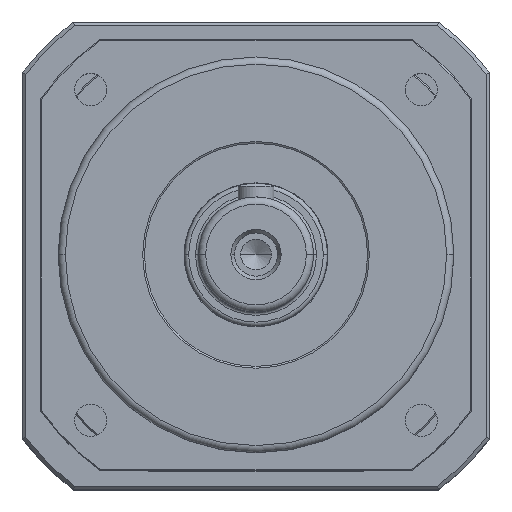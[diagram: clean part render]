
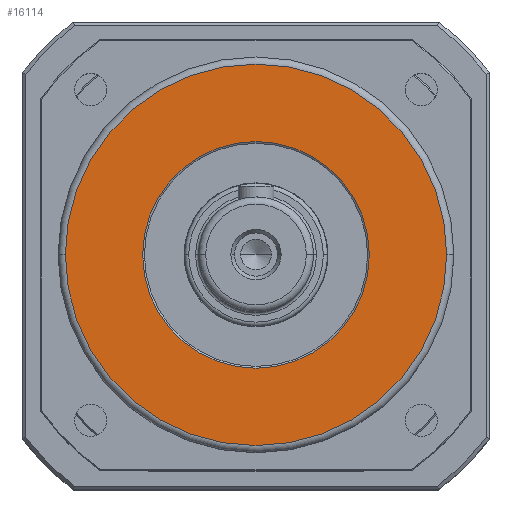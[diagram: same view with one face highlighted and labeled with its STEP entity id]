
A CAD part, top view. The second image highlights one B-rep face of the part: STEP entity #16114.
In plain terms, the highlighted planar face has unit normal (0, 0, 1).
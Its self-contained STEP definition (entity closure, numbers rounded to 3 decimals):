
#432 = VERTEX_POINT ( 'NONE', #5733 ) ;
#433 = VERTEX_POINT ( 'NONE', #5734 ) ;
#436 = VERTEX_POINT ( 'NONE', #5737 ) ;
#437 = VERTEX_POINT ( 'NONE', #5738 ) ;
#2688 = EDGE_LOOP ( 'NONE', ( #3337, #3339 ) ) ;
#2689 = EDGE_LOOP ( 'NONE', ( #3341, #3340 ) ) ;
#3337 = ORIENTED_EDGE ( 'NONE', *, *, #8381, .T. ) ;
#3339 = ORIENTED_EDGE ( 'NONE', *, *, #12991, .T. ) ;
#3340 = ORIENTED_EDGE ( 'NONE', *, *, #12993, .T. ) ;
#3341 = ORIENTED_EDGE ( 'NONE', *, *, #8385, .T. ) ;
#5733 = CARTESIAN_POINT ( 'NONE',  ( 53., 0., 12. ) ) ;
#5734 = CARTESIAN_POINT ( 'NONE',  ( -53., 0., 12. ) ) ;
#5737 = CARTESIAN_POINT ( 'NONE',  ( 31.5, 0., 12. ) ) ;
#5738 = CARTESIAN_POINT ( 'NONE',  ( -31.5, 0., 12. ) ) ;
#8381 = EDGE_CURVE ( 'NONE', #436, #437, #18107, .T. ) ;
#8385 = EDGE_CURVE ( 'NONE', #432, #433, #18115, .T. ) ;
#12991 = EDGE_CURVE ( 'NONE', #437, #436, #21429, .T. ) ;
#12993 = EDGE_CURVE ( 'NONE', #433, #432, #21424, .T. ) ;
#16114 = ADVANCED_FACE ( 'NONE', ( #22219, #22220 ), #23105, .T. ) ;
#17968 = CARTESIAN_POINT ( 'NONE',  ( 0., 0., 12. ) ) ;
#17969 = DIRECTION ( 'NONE',  ( 0., 0., -1. ) ) ;
#17970 = DIRECTION ( 'NONE',  ( 1., 0., 0. ) ) ;
#17979 = CARTESIAN_POINT ( 'NONE',  ( 0., 0., 12. ) ) ;
#17980 = DIRECTION ( 'NONE',  ( 0., 0., 1. ) ) ;
#17981 = DIRECTION ( 'NONE',  ( 1., 0., 0. ) ) ;
#18107 = CIRCLE ( 'NONE', #18109, 31.5 ) ;
#18109 = AXIS2_PLACEMENT_3D ( 'NONE', #17968, #17969, #17970 ) ;
#18115 = CIRCLE ( 'NONE', #18116, 53. ) ;
#18116 = AXIS2_PLACEMENT_3D ( 'NONE', #17979, #17980, #17981 ) ;
#21424 = CIRCLE ( 'NONE', #21431, 53. ) ;
#21427 = AXIS2_PLACEMENT_3D ( 'NONE', #21849, #21850, #21852 ) ;
#21429 = CIRCLE ( 'NONE', #21427, 31.5 ) ;
#21431 = AXIS2_PLACEMENT_3D ( 'NONE', #21855, #21857, #21859 ) ;
#21849 = CARTESIAN_POINT ( 'NONE',  ( 0., 0., 12. ) ) ;
#21850 = DIRECTION ( 'NONE',  ( 0., 0., -1. ) ) ;
#21852 = DIRECTION ( 'NONE',  ( 1., 0., 0. ) ) ;
#21855 = CARTESIAN_POINT ( 'NONE',  ( 0., 0., 12. ) ) ;
#21857 = DIRECTION ( 'NONE',  ( 0., 0., 1. ) ) ;
#21859 = DIRECTION ( 'NONE',  ( 1., 0., 0. ) ) ;
#22219 = FACE_BOUND ( 'NONE', #2688, .T. ) ;
#22220 = FACE_OUTER_BOUND ( 'NONE', #2689, .T. ) ;
#22501 = AXIS2_PLACEMENT_3D ( 'NONE', #23106, #23107, #23108 ) ;
#23105 = PLANE ( 'NONE',  #22501 ) ;
#23106 = CARTESIAN_POINT ( 'NONE',  ( 0., 0., 12. ) ) ;
#23107 = DIRECTION ( 'NONE',  ( 0., 0., 1. ) ) ;
#23108 = DIRECTION ( 'NONE',  ( 1., 0., 0. ) ) ;
